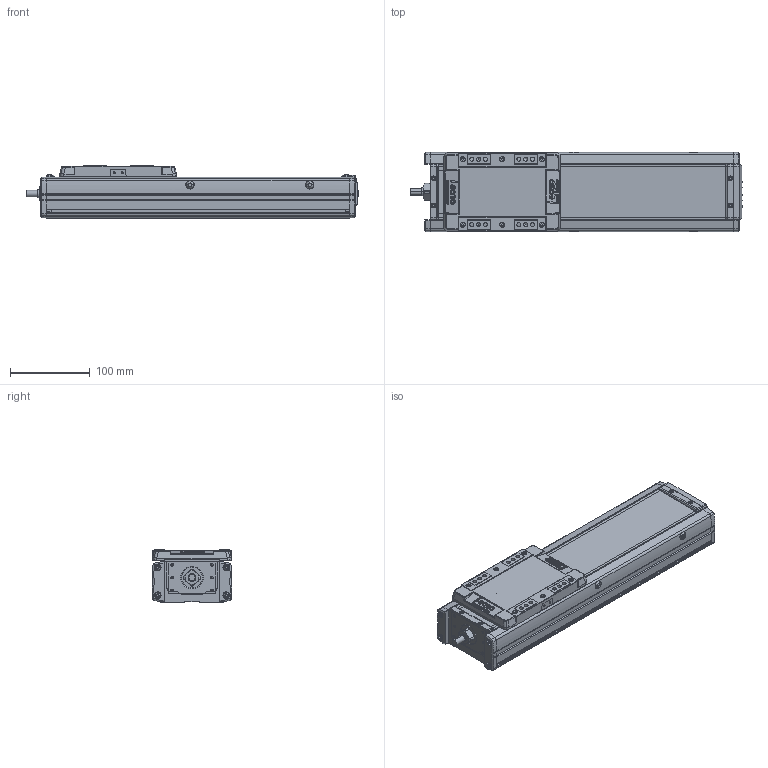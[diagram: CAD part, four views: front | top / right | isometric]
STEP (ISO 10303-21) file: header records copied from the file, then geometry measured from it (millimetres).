
FILE_DESCRIPTION(('STEP AP214'),'1');
FILE_NAME('Z:/Web/3D/SAN100/SAN100 양산용 (STEP)/SAN100ㅁㅁ-200.stp','2013-04-25T00:25:38',(' '),(' '),'Spatial InterOp 3D',' ',' ');
FILE_SCHEMA(('automotive_design'));
Length unit declared in the file: millimetre
Products named in the file (34): SUS COVER; SFX-SAN100; RRCV-SAN100; 스크루 : Round - M4.0 x 10.0; M3.0 x 6.0; 스크루 : Round - M3.0 x 6.0; FRBL-SAN100; SLBL-SAN100; SLCV-SAN100; 스크루 : Countersunk - M3.0 x 6.0; BASE; 스크루 : Round - M5.0 x 6.0; 너트 : Square - M10.0 x 220.7419; RR1500-000L; FRCV-SAN100
Bounding box: 416 x 100 x 66 mm (x, y, z)
Volume: 1190414.9 mm3; surface area: 323701.5 mm2
Topology: 34 solids, 35 shells, 1918 faces, 4990 edges, 3211 vertices
Faces by surface type: plane 965, cylinder 689, cone 182, sphere 44, torus 26, bspline 12
Entity records: 75583 total; most frequent: CARTESIAN_POINT 11503, DIRECTION 10493, ORIENTED_EDGE 9832, EDGE_CURVE 4916, AXIS2_PLACEMENT_3D 3750, VERTEX_POINT 3211, LINE 2993, VECTOR 2993
